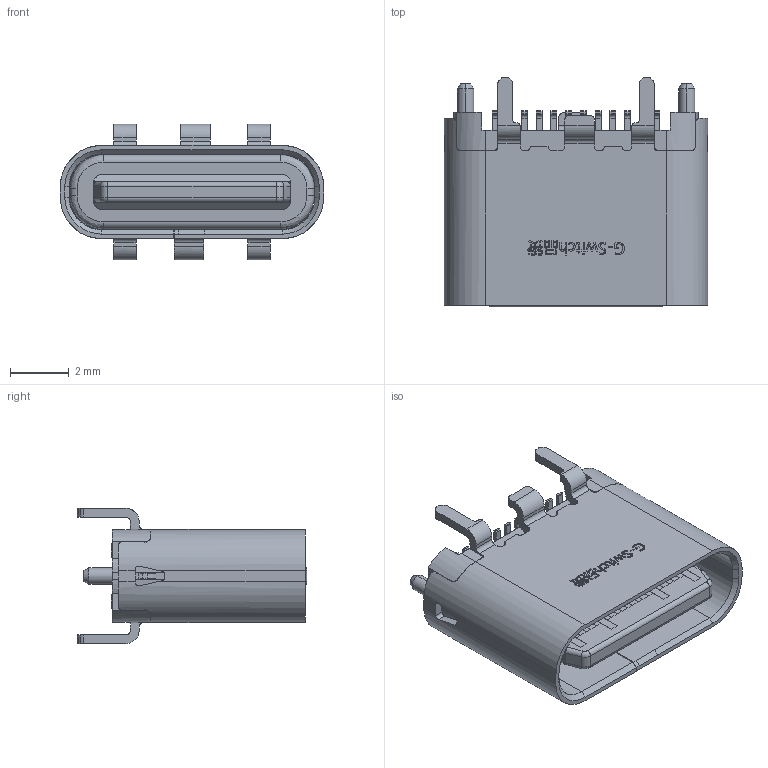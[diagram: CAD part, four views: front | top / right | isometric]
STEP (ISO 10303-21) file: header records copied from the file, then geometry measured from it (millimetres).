
FILE_DESCRIPTION (( 'STEP AP203' ), '1' );
FILE_NAME ('GT-USB-7052A.STEP', '2023-04-25T07:00:37', ( '' ), ( '' ), 'SwSTEP 2.0', 'SolidWorks 2023', '' );
FILE_SCHEMA (( 'CONFIG_CONTROL_DESIGN' ));
Length unit declared in the file: millimetre
Products named in the file (33): MSBR-27.STEP; MSBR-5_1.STEP; MSBR-19_1.STEP; MSBR-2_1.STEP; MSBR-32.STEP; MSBR-11_1.STEP; MSBR-13_1.STEP; MSBR-4_1.STEP; MSBR-24_1.STEP; MSBR-16_1.STEP; MSBR-3_1.STEP; MSBR-26_1.STEP; MSBR-10_1.STEP; MSBR-14_1.STEP; MSBR-25_1.STEP; MSBR-18_1.STEP; MSBR-21_1.STEP; MSBR-6_1.STEP; MSBR-9_1.STEP; MSBR-15_1.STEP; MSBR-23_1.STEP; MSBR-17_1.STEP; MSBR-20_1.STEP; ASM0001_ASM_1.STEP; MSBR-28.STEP; GT-USB-7052A; MSBR-8_1.STEP; MSBR-29.STEP; MSBR-12_1.STEP; GT-USB-7052A_1.STEP; MSBR-7_1.STEP; MSBR-22_1.STEP; MSBR-33.STEP
Assembly tree (32 placements, depth 4):
  GT-USB-7052A
    GT-USB-7052A_1.STEP
      ASM0001_ASM_1.STEP
        MSBR-33.STEP
        MSBR-32.STEP
        MSBR-29.STEP
        MSBR-28.STEP
        MSBR-27.STEP
        MSBR-26_1.STEP
        MSBR-25_1.STEP
        MSBR-24_1.STEP
        MSBR-23_1.STEP
        MSBR-22_1.STEP
        MSBR-21_1.STEP
        MSBR-20_1.STEP
        MSBR-19_1.STEP
        MSBR-18_1.STEP
        MSBR-17_1.STEP
        MSBR-16_1.STEP
        MSBR-15_1.STEP
        MSBR-14_1.STEP
        MSBR-13_1.STEP
        MSBR-12_1.STEP
        MSBR-11_1.STEP
        MSBR-10_1.STEP
        MSBR-9_1.STEP
        MSBR-8_1.STEP
        MSBR-7_1.STEP
        MSBR-6_1.STEP
        MSBR-5_1.STEP
        MSBR-4_1.STEP
        MSBR-3_1.STEP
        MSBR-2_1.STEP
Bounding box: 8.94 x 7.8 x 4.6 mm (x, y, z)
Volume: 181.5 mm3; surface area: 970.2 mm2
Topology: 30 solids, 30 shells, 2552 faces, 7393 edges, 4860 vertices
Faces by surface type: plane 1548, cylinder 854, bspline 121, torus 21, cone 8
Entity records: 92058 total; most frequent: CARTESIAN_POINT 20907, ORIENTED_EDGE 14778, DIRECTION 13470, EDGE_CURVE 7389, VECTOR 5244, LINE 5244, VERTEX_POINT 4860, AXIS2_PLACEMENT_3D 4113
